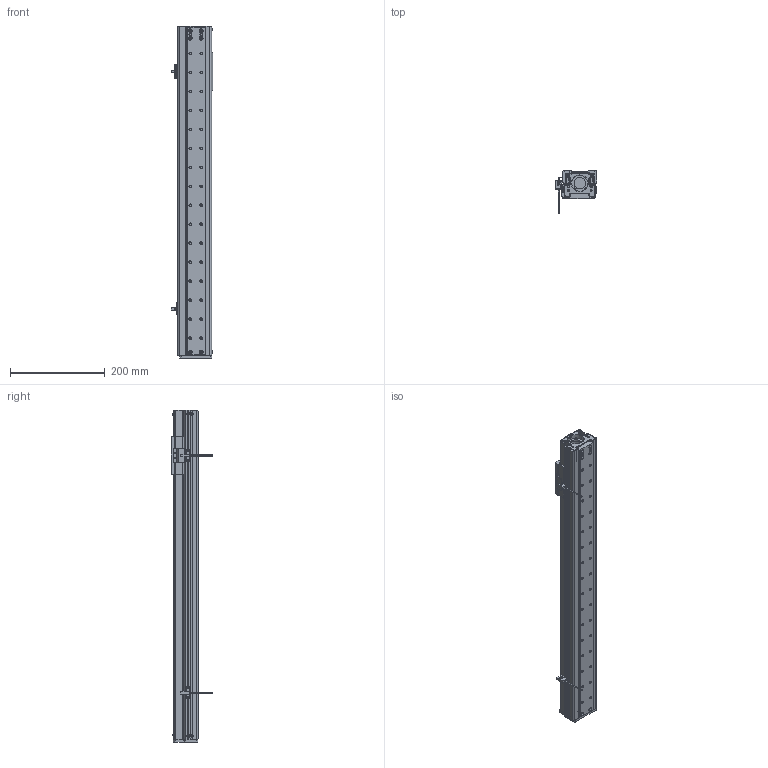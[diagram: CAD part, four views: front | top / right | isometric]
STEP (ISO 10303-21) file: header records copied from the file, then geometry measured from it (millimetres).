
FILE_DESCRIPTION (( 'STEP AP203' ), '1' );
FILE_NAME ('CTHM6-S500.STEP', '2019-12-18T01:49:44', ( '微软用户' ), ( '微软中国' ), 'SwSTEP 2.0', 'SolidWorks 2017', '' );
FILE_SCHEMA (( 'CONFIG_CONTROL_DESIGN' ));
Length unit declared in the file: millimetre
Products named in the file (17): 滅袉蝶; MG60裔啣; CTHM6-S500; 耜結啣(湍羞); LMW15奻窅; DG60傷裔(祥結傷裔); 蟀諉釱(裔啣党蜊); M4-L10囀鞠褒蹟佪; LMW15AA; 侧挡板2(带磁条修改厚度); 固定侧轴承座(自制轴承座); M3-L6半圆头内六角螺丝; 羲壽え; M3-L6囀鞠褒蹟佪; 支持侧轴承座(带磁条); EE-SX672-BR; 遣喳蝶15x12x8
Assembly tree (29 placements, depth 2):
  CTHM6-S500
    LMW15奻窅
    蟀諉釱(裔啣党蜊)
    LMW15AA
    固定侧轴承座(自制轴承座)
    羲壽え
    支持侧轴承座(带磁条)
    遣喳蝶15x12x8  x2
    MG60裔啣
    耜結啣(湍羞)
    DG60傷裔(祥結傷裔)
    M4-L10囀鞠褒蹟佪  x2
    侧挡板2(带磁条修改厚度)
    M3-L6半圆头内六角螺丝  x8
    M3-L6囀鞠褒蹟佪  x4
    EE-SX672-BR  x2
    滅袉蝶
Bounding box: 86.7 x 87.8 x 700 mm (x, y, z)
Volume: 745592 mm3; surface area: 505222.3 mm2
Topology: 33 solids, 33 shells, 1949 faces, 5002 edges, 3096 vertices
Faces by surface type: plane 792, cylinder 705, cone 338, torus 88, bspline 26
Entity records: 53308 total; most frequent: CARTESIAN_POINT 11127, DIRECTION 8670, ORIENTED_EDGE 8220, EDGE_CURVE 4110, AXIS2_PLACEMENT_3D 3240, VERTEX_POINT 2597, VECTOR 2190, LINE 2190
